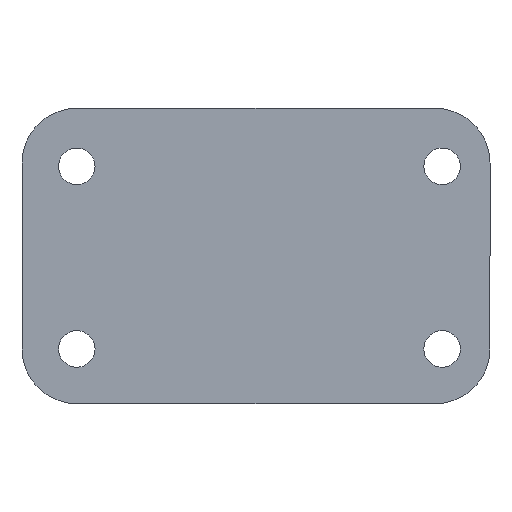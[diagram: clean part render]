
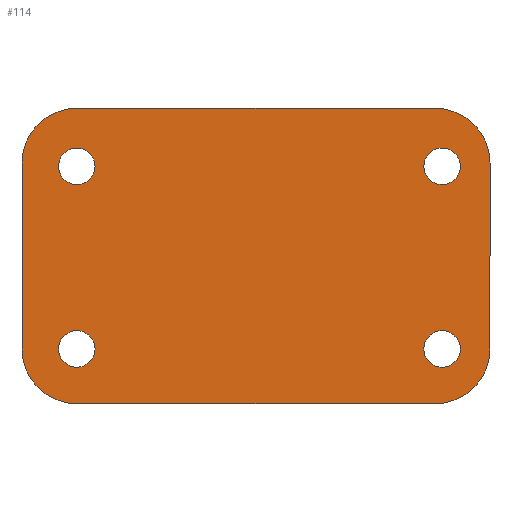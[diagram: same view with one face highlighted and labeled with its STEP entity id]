
A CAD part, front view. The second image highlights one B-rep face of the part: STEP entity #114.
In plain terms, the highlighted planar face has unit normal (0, -1, 0).
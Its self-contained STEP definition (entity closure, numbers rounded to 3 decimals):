
#2 = DIRECTION ( 'NONE',  ( 0., 0., 1. ) ) ;
#7 = VERTEX_POINT ( 'NONE', #11 ) ;
#11 = CARTESIAN_POINT ( 'NONE',  ( 50.948, -5., 29.557 ) ) ;
#15 = DIRECTION ( 'NONE',  ( 0., 0., 1. ) ) ;
#21 = DIRECTION ( 'NONE',  ( 0., -1., 0. ) ) ;
#26 = CARTESIAN_POINT ( 'NONE',  ( 49.052, -5., 25.443 ) ) ;
#29 = VECTOR ( 'NONE', #498, 1000. ) ;
#36 = CIRCLE ( 'NONE', #172, 5. ) ;
#40 = DIRECTION ( 'NONE',  ( 0., 1., 0. ) ) ;
#45 = ORIENTED_EDGE ( 'NONE', *, *, #384, .T. ) ;
#48 = DIRECTION ( 'NONE',  ( 0., -1., 0. ) ) ;
#50 = CARTESIAN_POINT ( 'NONE',  ( -49.052, -5., 24.557 ) ) ;
#52 = FACE_OUTER_BOUND ( 'NONE', #209, .T. ) ;
#53 = AXIS2_PLACEMENT_3D ( 'NONE', #566, #465, #372 ) ;
#55 = DIRECTION ( 'NONE',  ( -1., 0., 0. ) ) ;
#57 = CIRCLE ( 'NONE', #53, 5. ) ;
#62 = CARTESIAN_POINT ( 'NONE',  ( 64.052, -5., -25.443 ) ) ;
#66 = ORIENTED_EDGE ( 'NONE', *, *, #563, .T. ) ;
#67 = EDGE_CURVE ( 'NONE', #530, #159, #135, .T. ) ;
#68 = VERTEX_POINT ( 'NONE', #154 ) ;
#70 = CARTESIAN_POINT ( 'NONE',  ( -49.052, -5., -40.443 ) ) ;
#78 = CARTESIAN_POINT ( 'NONE',  ( 49.052, -5., 40.443 ) ) ;
#82 = ORIENTED_EDGE ( 'NONE', *, *, #556, .F. ) ;
#87 = CARTESIAN_POINT ( 'NONE',  ( -49.052, -5., -30.443 ) ) ;
#96 = DIRECTION ( 'NONE',  ( 0., 0., 1. ) ) ;
#97 = EDGE_CURVE ( 'NONE', #394, #261, #320, .T. ) ;
#105 = FACE_BOUND ( 'NONE', #434, .T. ) ;
#107 = ORIENTED_EDGE ( 'NONE', *, *, #120, .F. ) ;
#109 = EDGE_CURVE ( 'NONE', #562, #68, #214, .T. ) ;
#112 = DIRECTION ( 'NONE',  ( 0., 0., 1. ) ) ;
#114 = ADVANCED_FACE ( 'NONE', ( #540, #454, #194, #105, #52 ), #414, .F. ) ;
#115 = AXIS2_PLACEMENT_3D ( 'NONE', #441, #545, #615 ) ;
#119 = VECTOR ( 'NONE', #55, 1000. ) ;
#120 = EDGE_CURVE ( 'NONE', #497, #218, #468, .T. ) ;
#123 = AXIS2_PLACEMENT_3D ( 'NONE', #420, #318, #15 ) ;
#125 = VERTEX_POINT ( 'NONE', #474 ) ;
#129 = DIRECTION ( 'NONE',  ( 0., 0., 1. ) ) ;
#132 = DIRECTION ( 'NONE',  ( 0., 1., 0. ) ) ;
#135 = LINE ( 'NONE', #327, #119 ) ;
#139 = DIRECTION ( 'NONE',  ( 0., 0., 1. ) ) ;
#142 = CARTESIAN_POINT ( 'NONE',  ( -64.052, -5., 40.443 ) ) ;
#146 = ORIENTED_EDGE ( 'NONE', *, *, #97, .T. ) ;
#154 = CARTESIAN_POINT ( 'NONE',  ( -49.052, -5., 29.557 ) ) ;
#155 = DIRECTION ( 'NONE',  ( 0., 1., 0. ) ) ;
#159 = VERTEX_POINT ( 'NONE', #70 ) ;
#166 = CIRCLE ( 'NONE', #254, 5. ) ;
#172 = AXIS2_PLACEMENT_3D ( 'NONE', #544, #40, #295 ) ;
#176 = EDGE_LOOP ( 'NONE', ( #481, #543 ) ) ;
#187 = DIRECTION ( 'NONE',  ( 0., 0., 1. ) ) ;
#194 = FACE_BOUND ( 'NONE', #462, .T. ) ;
#197 = EDGE_CURVE ( 'NONE', #273, #242, #301, .T. ) ;
#203 = EDGE_CURVE ( 'NONE', #555, #125, #412, .T. ) ;
#207 = CARTESIAN_POINT ( 'NONE',  ( 50.948, -5., -25.443 ) ) ;
#209 = EDGE_LOOP ( 'NONE', ( #437, #66, #617, #45, #82, #456, #107, #307 ) ) ;
#214 = CIRCLE ( 'NONE', #531, 5. ) ;
#218 = VERTEX_POINT ( 'NONE', #78 ) ;
#222 = CIRCLE ( 'NONE', #451, 15. ) ;
#229 = VECTOR ( 'NONE', #484, 1000. ) ;
#233 = DIRECTION ( 'NONE',  ( 1., 0., 0. ) ) ;
#234 = CARTESIAN_POINT ( 'NONE',  ( -49.052, -5., 19.557 ) ) ;
#237 = CARTESIAN_POINT ( 'NONE',  ( -64.052, -5., -40.443 ) ) ;
#242 = VERTEX_POINT ( 'NONE', #546 ) ;
#243 = DIRECTION ( 'NONE',  ( 0., 0., 1. ) ) ;
#252 = DIRECTION ( 'NONE',  ( 0., -1., 0. ) ) ;
#254 = AXIS2_PLACEMENT_3D ( 'NONE', #378, #132, #187 ) ;
#261 = VERTEX_POINT ( 'NONE', #622 ) ;
#263 = CIRCLE ( 'NONE', #409, 5. ) ;
#270 = EDGE_CURVE ( 'NONE', #261, #394, #166, .T. ) ;
#273 = VERTEX_POINT ( 'NONE', #87 ) ;
#288 = CARTESIAN_POINT ( 'NONE',  ( 49.052, -5., -40.443 ) ) ;
#292 = ORIENTED_EDGE ( 'NONE', *, *, #485, .T. ) ;
#295 = DIRECTION ( 'NONE',  ( 0., 0., 1. ) ) ;
#296 = EDGE_CURVE ( 'NONE', #497, #125, #404, .T. ) ;
#298 = CARTESIAN_POINT ( 'NONE',  ( 49.052, -5., -25.443 ) ) ;
#299 = CIRCLE ( 'NONE', #123, 5. ) ;
#301 = CIRCLE ( 'NONE', #115, 5. ) ;
#302 = ORIENTED_EDGE ( 'NONE', *, *, #109, .T. ) ;
#304 = DIRECTION ( 'NONE',  ( 0., 1., 0. ) ) ;
#307 = ORIENTED_EDGE ( 'NONE', *, *, #296, .T. ) ;
#318 = DIRECTION ( 'NONE',  ( 0., 1., 0. ) ) ;
#320 = CIRCLE ( 'NONE', #461, 5. ) ;
#327 = CARTESIAN_POINT ( 'NONE',  ( -64.052, -5., -40.443 ) ) ;
#333 = ORIENTED_EDGE ( 'NONE', *, *, #270, .T. ) ;
#337 = CARTESIAN_POINT ( 'NONE',  ( -49.052, -5., 40.443 ) ) ;
#359 = DIRECTION ( 'NONE',  ( 0., 1., 0. ) ) ;
#362 = LINE ( 'NONE', #387, #229 ) ;
#363 = CARTESIAN_POINT ( 'NONE',  ( 50.948, -5., 19.557 ) ) ;
#365 = EDGE_CURVE ( 'NONE', #551, #218, #610, .T. ) ;
#372 = DIRECTION ( 'NONE',  ( 0., 0., 1. ) ) ;
#376 = AXIS2_PLACEMENT_3D ( 'NONE', #405, #48, #112 ) ;
#377 = CARTESIAN_POINT ( 'NONE',  ( -64.052, -5., -25.443 ) ) ;
#378 = CARTESIAN_POINT ( 'NONE',  ( 50.948, -5., -25.443 ) ) ;
#384 = EDGE_CURVE ( 'NONE', #530, #612, #222, .T. ) ;
#387 = CARTESIAN_POINT ( 'NONE',  ( 64.052, -5., -40.443 ) ) ;
#388 = AXIS2_PLACEMENT_3D ( 'NONE', #533, #21, #139 ) ;
#394 = VERTEX_POINT ( 'NONE', #502 ) ;
#397 = EDGE_CURVE ( 'NONE', #7, #572, #36, .T. ) ;
#404 = CIRCLE ( 'NONE', #388, 15. ) ;
#405 = CARTESIAN_POINT ( 'NONE',  ( -49.052, -5., -25.443 ) ) ;
#409 = AXIS2_PLACEMENT_3D ( 'NONE', #492, #577, #243 ) ;
#412 = LINE ( 'NONE', #237, #29 ) ;
#414 = PLANE ( 'NONE',  #621 ) ;
#419 = AXIS2_PLACEMENT_3D ( 'NONE', #26, #466, #129 ) ;
#420 = CARTESIAN_POINT ( 'NONE',  ( -49.052, -5., 24.557 ) ) ;
#434 = EDGE_LOOP ( 'NONE', ( #292, #628 ) ) ;
#437 = ORIENTED_EDGE ( 'NONE', *, *, #203, .F. ) ;
#441 = CARTESIAN_POINT ( 'NONE',  ( -49.052, -5., -25.443 ) ) ;
#451 = AXIS2_PLACEMENT_3D ( 'NONE', #298, #252, #96 ) ;
#454 = FACE_BOUND ( 'NONE', #493, .T. ) ;
#455 = DIRECTION ( 'NONE',  ( 0., 0., 1. ) ) ;
#456 = ORIENTED_EDGE ( 'NONE', *, *, #365, .T. ) ;
#461 = AXIS2_PLACEMENT_3D ( 'NONE', #207, #359, #2 ) ;
#462 = EDGE_LOOP ( 'NONE', ( #620, #302 ) ) ;
#465 = DIRECTION ( 'NONE',  ( 0., 1., 0. ) ) ;
#466 = DIRECTION ( 'NONE',  ( 0., -1., 0. ) ) ;
#468 = LINE ( 'NONE', #142, #595 ) ;
#474 = CARTESIAN_POINT ( 'NONE',  ( -64.052, -5., 25.443 ) ) ;
#481 = ORIENTED_EDGE ( 'NONE', *, *, #397, .T. ) ;
#484 = DIRECTION ( 'NONE',  ( 0., 0., -1. ) ) ;
#485 = EDGE_CURVE ( 'NONE', #242, #273, #263, .T. ) ;
#492 = CARTESIAN_POINT ( 'NONE',  ( -49.052, -5., -25.443 ) ) ;
#493 = EDGE_LOOP ( 'NONE', ( #333, #146 ) ) ;
#496 = CIRCLE ( 'NONE', #376, 15. ) ;
#497 = VERTEX_POINT ( 'NONE', #337 ) ;
#498 = DIRECTION ( 'NONE',  ( 0., 0., 1. ) ) ;
#502 = CARTESIAN_POINT ( 'NONE',  ( 50.948, -5., -30.443 ) ) ;
#509 = CARTESIAN_POINT ( 'NONE',  ( 0., -5., 0. ) ) ;
#510 = DIRECTION ( 'NONE',  ( 0., 0., 1. ) ) ;
#530 = VERTEX_POINT ( 'NONE', #288 ) ;
#531 = AXIS2_PLACEMENT_3D ( 'NONE', #50, #155, #455 ) ;
#533 = CARTESIAN_POINT ( 'NONE',  ( -49.052, -5., 25.443 ) ) ;
#540 = FACE_BOUND ( 'NONE', #176, .T. ) ;
#543 = ORIENTED_EDGE ( 'NONE', *, *, #606, .T. ) ;
#544 = CARTESIAN_POINT ( 'NONE',  ( 50.948, -5., 24.557 ) ) ;
#545 = DIRECTION ( 'NONE',  ( 0., 1., 0. ) ) ;
#546 = CARTESIAN_POINT ( 'NONE',  ( -49.052, -5., -20.443 ) ) ;
#551 = VERTEX_POINT ( 'NONE', #593 ) ;
#555 = VERTEX_POINT ( 'NONE', #377 ) ;
#556 = EDGE_CURVE ( 'NONE', #551, #612, #362, .T. ) ;
#562 = VERTEX_POINT ( 'NONE', #234 ) ;
#563 = EDGE_CURVE ( 'NONE', #555, #159, #496, .T. ) ;
#566 = CARTESIAN_POINT ( 'NONE',  ( 50.948, -5., 24.557 ) ) ;
#572 = VERTEX_POINT ( 'NONE', #363 ) ;
#577 = DIRECTION ( 'NONE',  ( 0., 1., 0. ) ) ;
#593 = CARTESIAN_POINT ( 'NONE',  ( 64.052, -5., 25.443 ) ) ;
#595 = VECTOR ( 'NONE', #233, 1000. ) ;
#606 = EDGE_CURVE ( 'NONE', #572, #7, #57, .T. ) ;
#610 = CIRCLE ( 'NONE', #419, 15. ) ;
#612 = VERTEX_POINT ( 'NONE', #62 ) ;
#614 = EDGE_CURVE ( 'NONE', #68, #562, #299, .T. ) ;
#615 = DIRECTION ( 'NONE',  ( 0., 0., 1. ) ) ;
#617 = ORIENTED_EDGE ( 'NONE', *, *, #67, .F. ) ;
#620 = ORIENTED_EDGE ( 'NONE', *, *, #614, .T. ) ;
#621 = AXIS2_PLACEMENT_3D ( 'NONE', #509, #304, #510 ) ;
#622 = CARTESIAN_POINT ( 'NONE',  ( 50.948, -5., -20.443 ) ) ;
#628 = ORIENTED_EDGE ( 'NONE', *, *, #197, .T. ) ;
